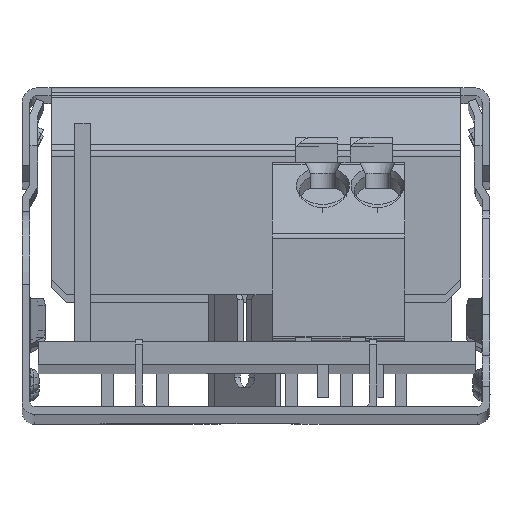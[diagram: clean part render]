
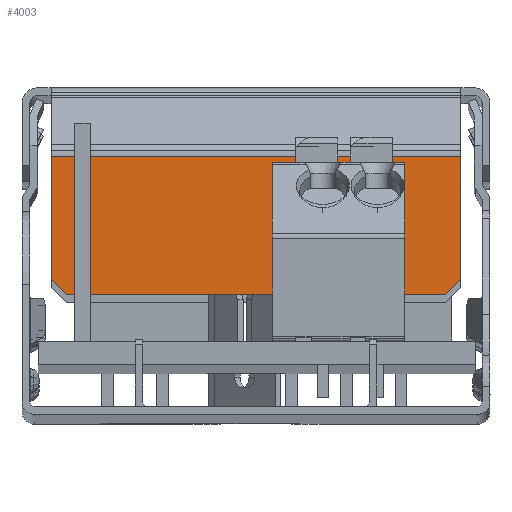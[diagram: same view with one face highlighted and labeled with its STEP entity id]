
A CAD part, top view. The second image highlights one B-rep face of the part: STEP entity #4003.
In plain terms, the highlighted planar face has unit normal (0, 0, 1).
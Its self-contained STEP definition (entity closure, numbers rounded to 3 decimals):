
#561 = EDGE_CURVE ( 'NONE', #16237, #34196, #26217, .T. ) ;
#978 = FACE_OUTER_BOUND ( 'NONE', #4825, .T. ) ;
#1722 = LINE ( 'NONE', #24677, #17010 ) ;
#1936 = VECTOR ( 'NONE', #22591, 1000. ) ;
#2308 = AXIS2_PLACEMENT_3D ( 'NONE', #10217, #20930, #18828 ) ;
#2453 = LINE ( 'NONE', #11118, #1936 ) ;
#3623 = ORIENTED_EDGE ( 'NONE', *, *, #17217, .T. ) ;
#3767 = VERTEX_POINT ( 'NONE', #28501 ) ;
#4003 = ADVANCED_FACE ( 'NONE', ( #978 ), #12468, .T. ) ;
#4580 = LINE ( 'NONE', #28104, #28651 ) ;
#4825 = EDGE_LOOP ( 'NONE', ( #12227, #12608, #27454, #6954, #3623, #26423 ) ) ;
#4941 = VERTEX_POINT ( 'NONE', #10125 ) ;
#6954 = ORIENTED_EDGE ( 'NONE', *, *, #15386, .F. ) ;
#7402 = VERTEX_POINT ( 'NONE', #33835 ) ;
#8326 = CARTESIAN_POINT ( 'NONE',  ( -13.155, 8.755, 517.991 ) ) ;
#8390 = VECTOR ( 'NONE', #13040, 1000. ) ;
#9868 = CARTESIAN_POINT ( 'NONE',  ( 12.135, 7.735, 517.991 ) ) ;
#10125 = CARTESIAN_POINT ( 'NONE',  ( 13.135, 8.735, 517.991 ) ) ;
#10217 = CARTESIAN_POINT ( 'NONE',  ( 13.661, 17.01, 517.991 ) ) ;
#10594 = CARTESIAN_POINT ( 'NONE',  ( 12.115, 7.715, 517.991 ) ) ;
#11118 = CARTESIAN_POINT ( 'NONE',  ( 0., 7.735, 517.991 ) ) ;
#11340 = DIRECTION ( 'NONE',  ( -0.707, 0.707, 0. ) ) ;
#11507 = DIRECTION ( 'NONE',  ( -1., 0., 0. ) ) ;
#12227 = ORIENTED_EDGE ( 'NONE', *, *, #32802, .F. ) ;
#12468 = PLANE ( 'NONE',  #2308 ) ;
#12608 = ORIENTED_EDGE ( 'NONE', *, *, #15974, .F. ) ;
#13040 = DIRECTION ( 'NONE',  ( -0.707, -0.707, 0. ) ) ;
#13217 = VECTOR ( 'NONE', #23211, 1000. ) ;
#13597 = LINE ( 'NONE', #10594, #8390 ) ;
#15386 = EDGE_CURVE ( 'NONE', #7402, #4941, #4580, .T. ) ;
#15974 = EDGE_CURVE ( 'NONE', #18139, #3767, #2453, .T. ) ;
#16237 = VERTEX_POINT ( 'NONE', #33089 ) ;
#16597 = DIRECTION ( 'NONE',  ( 0., -1., 0. ) ) ;
#17010 = VECTOR ( 'NONE', #11507, 1000. ) ;
#17217 = EDGE_CURVE ( 'NONE', #7402, #34196, #1722, .T. ) ;
#18139 = VERTEX_POINT ( 'NONE', #9868 ) ;
#18828 = DIRECTION ( 'NONE',  ( 1., 0., 0. ) ) ;
#20196 = CARTESIAN_POINT ( 'NONE',  ( -13.135, 12.176, 517.991 ) ) ;
#20930 = DIRECTION ( 'NONE',  ( 0., 0., 1. ) ) ;
#21775 = CARTESIAN_POINT ( 'NONE',  ( -13.135, 16.617, 517.991 ) ) ;
#22591 = DIRECTION ( 'NONE',  ( -1., 0., 0. ) ) ;
#22897 = EDGE_CURVE ( 'NONE', #4941, #18139, #13597, .T. ) ;
#23211 = DIRECTION ( 'NONE',  ( 0., 1., 0. ) ) ;
#24677 = CARTESIAN_POINT ( 'NONE',  ( 0., 16.617, 517.991 ) ) ;
#26217 = LINE ( 'NONE', #20196, #13217 ) ;
#26423 = ORIENTED_EDGE ( 'NONE', *, *, #561, .F. ) ;
#27454 = ORIENTED_EDGE ( 'NONE', *, *, #22897, .F. ) ;
#28104 = CARTESIAN_POINT ( 'NONE',  ( 13.135, 12.176, 517.991 ) ) ;
#28501 = CARTESIAN_POINT ( 'NONE',  ( -12.135, 7.735, 517.991 ) ) ;
#28651 = VECTOR ( 'NONE', #16597, 1000. ) ;
#32011 = LINE ( 'NONE', #8326, #35221 ) ;
#32802 = EDGE_CURVE ( 'NONE', #3767, #16237, #32011, .T. ) ;
#33089 = CARTESIAN_POINT ( 'NONE',  ( -13.135, 8.735, 517.991 ) ) ;
#33835 = CARTESIAN_POINT ( 'NONE',  ( 13.135, 16.617, 517.991 ) ) ;
#34196 = VERTEX_POINT ( 'NONE', #21775 ) ;
#35221 = VECTOR ( 'NONE', #11340, 1000. ) ;
